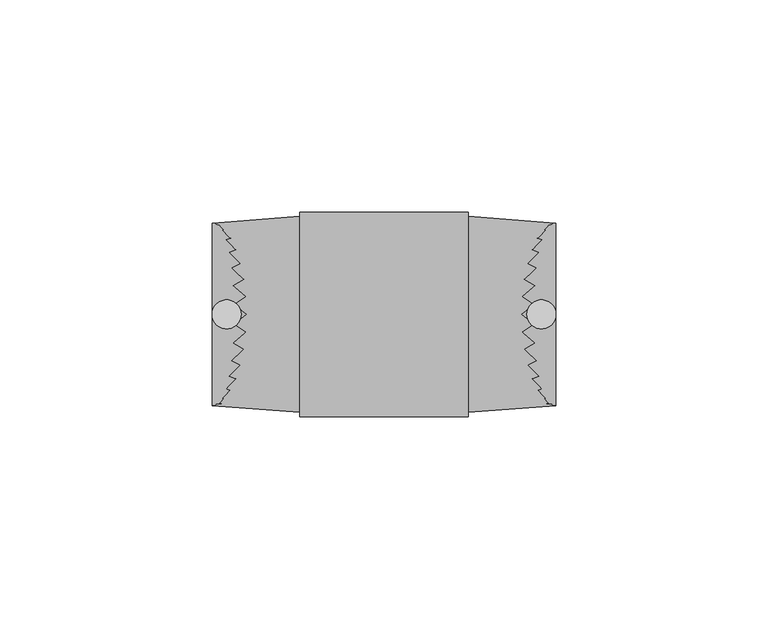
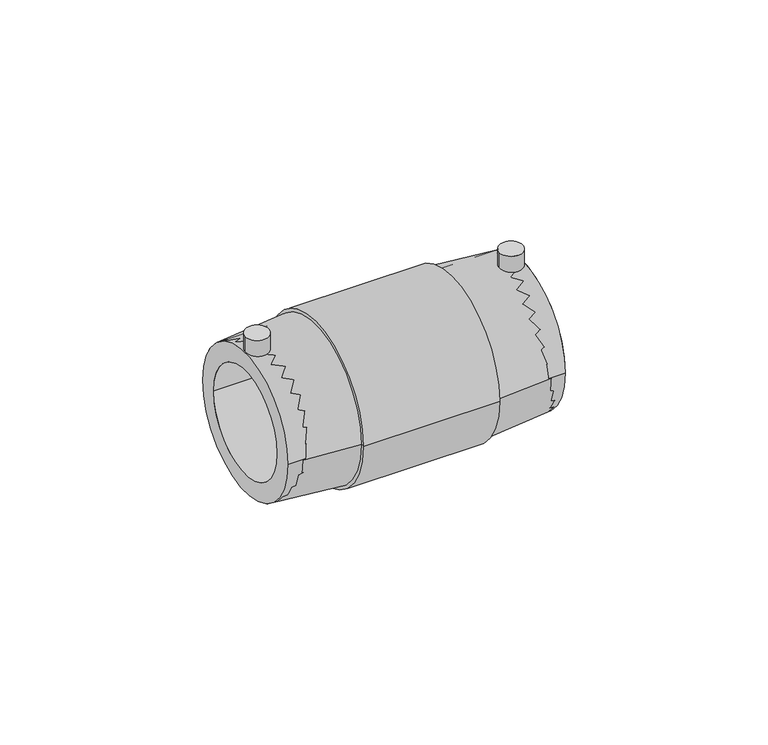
"""IFC4 building model written with IfcOpenShell, lengths in millimetres: pipe fitting geometry, EGB_VASEN_ PPR_Manguito electrosoldable WXRD100 : Manguito electrosoldable WXRD100."""

from ifc_helpers import new_model, si_unit, point, frame, frame_2d, origin, origin_2d, place, context, project, spatial, polyline, circle_curve, trimmed, segment, composite_curve, outline, extrude, source, transform, mapped, element, save
from ifc_brep_helpers import plane_surface, cylinder_surface, revolved_surface, advanced_brep


def pipe_fitting_ee51b794(model_context):
    return source(origin(), model_context, "Body", "SolidModel", [
        extrude(outline(composite_curve([segment(trimmed(circle_curve(origin_2d(), 21.5), [point((-21.5, 0.0))], [point((21.5, 0.0))], False, "CARTESIAN"), True, "CONTINUOUS"), segment(trimmed(circle_curve(origin_2d(), 21.5), [point((21.5, 0.0))], [point((-21.5, 0.0))], False, "CARTESIAN"), True, "CONTINUOUS")], self_intersect=False), holes=[composite_curve([segment(trimmed(circle_curve(origin_2d(), 16.0), [point((-16.0, 0.0))], [point((16.0, 0.0))], True, "CARTESIAN"), True, "CONTINUOUS"), segment(trimmed(circle_curve(origin_2d(), 16.0), [point((16.0, 0.0))], [point((-16.0, 0.0))], True, "CARTESIAN"), True, "CONTINUOUS")], self_intersect=False)]), frame((-40.5, 0.0, 0.0), z_axis=(1.0, 0.0, 0.0), x_axis=(0.0, 1.0, 0.0)), (0.0, 0.0, 1.0), 81.0),
        extrude(outline(composite_curve([segment(trimmed(circle_curve(frame_2d((-37.0878802, 0.0)), 3.4121198), [point((-40.5, 0.0))], [point((-33.6757605, 0.0))], False, "CARTESIAN"), True, "CONTINUOUS"), segment(trimmed(circle_curve(frame_2d((-37.0878802, 0.0)), 3.4121198), [point((-33.6757605, 0.0))], [point((-40.5, 0.0))], False, "CARTESIAN"), True, "CONTINUOUS")], self_intersect=False)), frame((0.0, 0.0, 18.0), z_axis=(0.0, 0.0, 1.0), x_axis=(1.0, 0.0, 0.0)), (0.0, 0.0, 1.0), 8.5),
        extrude(outline(composite_curve([segment(trimmed(circle_curve(frame_2d((37.0878802, 0.0)), 3.4121198), [point((33.6757605, 0.0))], [point((40.5, 0.0))], False, "CARTESIAN"), True, "CONTINUOUS"), segment(trimmed(circle_curve(frame_2d((37.0878802, 0.0)), 3.4121198), [point((40.5, 0.0))], [point((33.6757605, 0.0))], False, "CARTESIAN"), True, "CONTINUOUS")], self_intersect=False)), frame((0.0, 0.0, 18.0), z_axis=(0.0, 0.0, 1.0), x_axis=(1.0, 0.0, 0.0)), (0.0, 0.0, 1.0), 8.5),
        advanced_brep(
        [(19.85, -23.082849, 0.0), (19.85, 23.082849, 0.0), (40.5, 21.5, 0.0), (40.5, -21.5, 0.0), (19.85, -24.082849, 0.0), (19.85, 24.082849, 0.0), (-19.85, -24.082849, 0.0), (-19.85, 24.082849, 0.0), (-19.85, -23.082849, 0.0), (-19.85, 23.082849, 0.0), (-40.5, -21.5, 0.0), (-40.5, 21.5, 0.0)],
        [
            (0, 1, circle_curve(frame((19.85, 0.0, 0.0), z_axis=(1.0, 0.0, 0.0), x_axis=(0.0, 1.0, 0.0)), 23.082849)),
            (1, 2),
            (2, 3, circle_curve(frame((40.5, 0.0, 0.0), z_axis=(-1.0, 0.0, 0.0), x_axis=(0.0, 1.0, 0.0)), 21.5)),
            (3, 0),
            (1, 0, circle_curve(frame((19.85, 0.0, 0.0), z_axis=(1.0, 0.0, 0.0), x_axis=(0.0, 1.0, 0.0)), 23.082849)),
            (3, 2, circle_curve(frame((40.5, 0.0, 0.0), z_axis=(-1.0, 0.0, 0.0), x_axis=(0.0, 1.0, 0.0)), 21.5)),
            (4, 5, circle_curve(frame((19.85, 0.0, 0.0), z_axis=(1.0, 0.0, 0.0), x_axis=(0.0, 1.0, 0.0)), 24.082849)),
            (5, 1),
            (0, 4),
            (5, 4, circle_curve(frame((19.85, 0.0, 0.0), z_axis=(1.0, 0.0, 0.0), x_axis=(0.0, 1.0, 0.0)), 24.082849)),
            (6, 7, circle_curve(frame((-19.85, 0.0, 0.0), z_axis=(1.0, 0.0, 0.0), x_axis=(0.0, 1.0, 0.0)), 24.082849)),
            (7, 5),
            (4, 6),
            (7, 6, circle_curve(frame((-19.85, 0.0, 0.0), z_axis=(1.0, 0.0, 0.0), x_axis=(0.0, 1.0, 0.0)), 24.082849)),
            (8, 9, circle_curve(frame((-19.85, 0.0, 0.0), z_axis=(1.0, 0.0, 0.0), x_axis=(0.0, 1.0, 0.0)), 23.082849)),
            (9, 7),
            (6, 8),
            (9, 8, circle_curve(frame((-19.85, 0.0, 0.0), z_axis=(1.0, 0.0, 0.0), x_axis=(0.0, 1.0, 0.0)), 23.082849)),
            (10, 11, circle_curve(frame((-40.5, 0.0, 0.0), z_axis=(1.0, 0.0, 0.0), x_axis=(0.0, 1.0, 0.0)), 21.5)),
            (11, 9),
            (8, 10),
            (11, 10, circle_curve(frame((-40.5, 0.0, 0.0), z_axis=(1.0, 0.0, 0.0), x_axis=(0.0, 1.0, 0.0)), 21.5)),
            (2, 11),
            (10, 3),
        ],
        [
            revolved_surface(polyline([(40.5, 21.5, 0.0), (19.85, 23.082849, 0.0)]), (-34.2721997, 0.0, 0.0), (-1.0, 0.0, 0.0)),
            plane_surface(frame((19.85, 0.0, 0.0), z_axis=(1.0, 0.0, 0.0), x_axis=(0.0, 1.0, 0.0))),
            cylinder_surface(frame((-34.2721997, 0.0, 0.0), z_axis=(-1.0, 0.0, 0.0), x_axis=(0.0, 1.0, 0.0)), 24.082849),
            plane_surface(frame((-19.85, 0.0, 0.0), z_axis=(-1.0, 0.0, 0.0), x_axis=(0.0, 1.0, 0.0))),
            revolved_surface(polyline([(-19.85, 23.082849, 0.0), (-40.5, 21.5, 0.0)]), (-34.2721997, 0.0, 0.0), (-1.0, 0.0, 0.0)),
            revolved_surface(polyline([(-40.5, 21.5, 0.0), (40.5, 21.5, 0.0)]), (-34.2721997, 0.0, 0.0), (-1.0, 0.0, 0.0)),
        ],
        [
            (0, [[1, 2, 3, 4]]),
            (0, [[5, -4, 6, -2]]),
            (1, [[7, 8, -1, 9]]),
            (1, [[10, -9, -5, -8]]),
            (2, [[11, 12, -7, 13]]),
            (2, [[14, -13, -10, -12]]),
            (3, [[15, 16, -11, 17]]),
            (3, [[18, -17, -14, -16]]),
            (4, [[19, 20, -15, 21]]),
            (4, [[22, -21, -18, -20]]),
            (5, [[-3, 23, -19, 24]]),
            (5, [[-6, -24, -22, -23]]),
        ],
    ),
    ])


if __name__ == "__main__":
    model = new_model("IFC4")
    model_context = context("Model", 3, world=origin())
    ifc_project = project(units=[si_unit("LENGTHUNIT", "METRE", prefix="MILLI")], contexts=[model_context])
    site = spatial("IfcSite", under=ifc_project)
    building = spatial("IfcBuilding", under=site)
    placement = place(None, origin())
    pipe_fitting_shape = pipe_fitting_ee51b794(model_context)
    element("IfcPipeFitting", 1, ObjectType="EGB_VASEN_ PPR_Manguito electrosoldable WXRD100 : Manguito electrosoldable WXRD100", at=placement, inside=building, context=model_context, shape_type="MappedRepresentation", body=[
        mapped(pipe_fitting_shape, transform((0.0, 0.0, 0.0), x_axis=(1.0, 0.0, 0.0), y_axis=(0.0, 1.0, 0.0), z_axis=(0.0, 0.0, 1.0))),
    ])
    save(model, "model.ifc")
